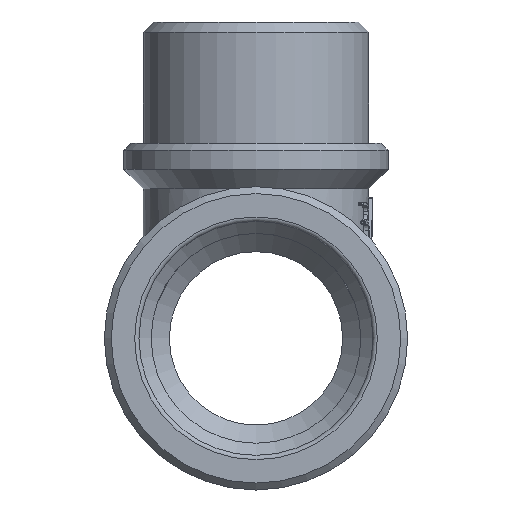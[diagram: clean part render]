
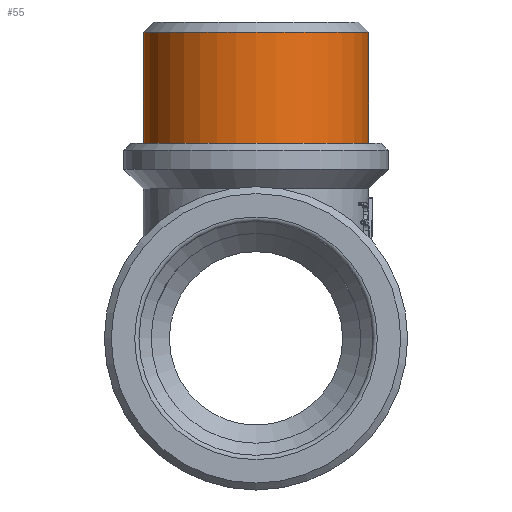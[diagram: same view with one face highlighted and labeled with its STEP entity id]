
A CAD part, front view. The second image highlights one B-rep face of the part: STEP entity #55.
In plain terms, the highlighted cylindrical face has radius 13 mm (diameter 26 mm), a full revolution.
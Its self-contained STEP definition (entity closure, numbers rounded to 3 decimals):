
#55=ADVANCED_FACE('',(#518,#520),#522,.T.);
#518=FACE_OUTER_BOUND('',#519,.T.);
#519=EDGE_LOOP('',(#3288));
#520=FACE_OUTER_BOUND('',#521,.T.);
#521=EDGE_LOOP('',(#3289));
#522=CYLINDRICAL_SURFACE('',#523,13.);
#523=AXIS2_PLACEMENT_3D('',#524,#525,#526);
#524=CARTESIAN_POINT('',(0.,0.,-16.25));
#525=DIRECTION('',(0.,0.,1.));
#526=DIRECTION('',(-1.,0.,0.));
#3288=ORIENTED_EDGE('',*,*,#5931,.F.);
#3289=ORIENTED_EDGE('',*,*,#5932,.F.);
#5931=EDGE_CURVE('',#6965,#6965,#6966,.T.);
#5932=EDGE_CURVE('',#6967,#6967,#6968,.F.);
#6965=VERTEX_POINT('',#8865);
#6966=CIRCLE('',#8866,13.);
#6967=VERTEX_POINT('',#8870);
#6968=CIRCLE('',#8871,13.);
#8865=CARTESIAN_POINT('',(-13.,0.,35.3));
#8866=AXIS2_PLACEMENT_3D('',#8867,#8868,#8869);
#8867=CARTESIAN_POINT('',(0.,0.,35.3));
#8868=DIRECTION('',(0.,0.,1.));
#8869=DIRECTION('',(-1.,0.,0.));
#8870=CARTESIAN_POINT('',(-13.,0.,22.5));
#8871=AXIS2_PLACEMENT_3D('',#8872,#8873,#8874);
#8872=CARTESIAN_POINT('',(0.,0.,22.5));
#8873=DIRECTION('',(0.,0.,1.));
#8874=DIRECTION('',(-1.,0.,0.));
